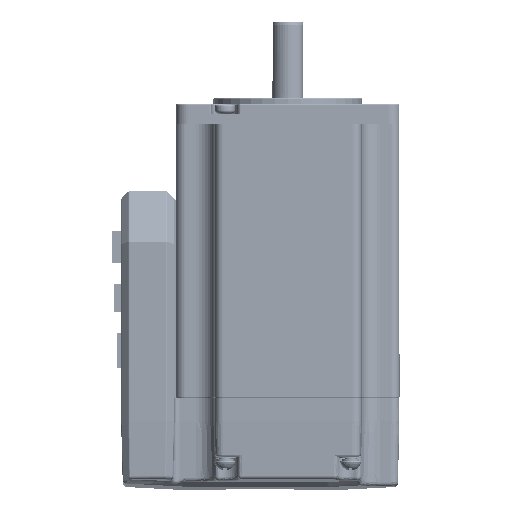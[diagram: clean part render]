
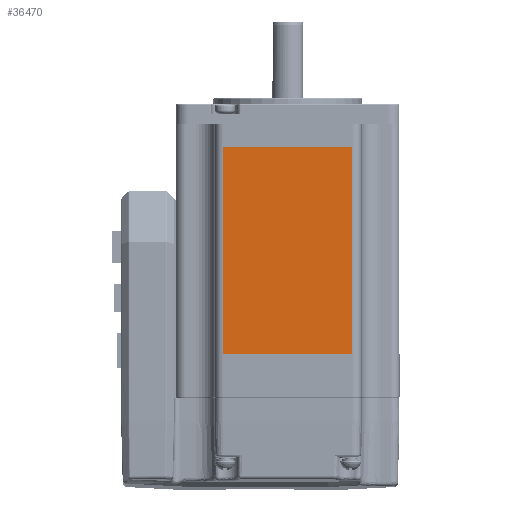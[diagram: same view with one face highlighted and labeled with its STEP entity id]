
A CAD part, left-side view. The second image highlights one B-rep face of the part: STEP entity #36470.
In plain terms, the highlighted planar face has unit normal (-1, 0, 0).
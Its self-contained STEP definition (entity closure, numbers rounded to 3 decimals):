
#27380=DIRECTION('',(0.,0.,1.));
#27381=VECTOR('',#27380,53.);
#27382=CARTESIAN_POINT('',(-28.6,-16.5,-26.5));
#27383=LINE('',#27382,#27381);
#27388=DIRECTION('',(0.,1.,0.));
#27389=VECTOR('',#27388,33.);
#27390=CARTESIAN_POINT('',(-28.6,-16.5,-26.5));
#27391=LINE('',#27390,#27389);
#27396=DIRECTION('',(0.,0.,-1.));
#27397=VECTOR('',#27396,53.);
#27398=CARTESIAN_POINT('',(-28.6,16.5,26.5));
#27399=LINE('',#27398,#27397);
#27526=DIRECTION('',(0.,1.,0.));
#27527=VECTOR('',#27526,33.);
#27528=CARTESIAN_POINT('',(-28.6,-16.5,26.5));
#27529=LINE('',#27528,#27527);
#32643=CARTESIAN_POINT('',(-28.6,16.5,-26.5));
#32644=VERTEX_POINT('',#32643);
#32645=CARTESIAN_POINT('',(-28.6,-16.5,-26.5));
#32646=VERTEX_POINT('',#32645);
#33804=CARTESIAN_POINT('',(-28.6,-16.5,26.5));
#33805=VERTEX_POINT('',#33804);
#33806=CARTESIAN_POINT('',(-28.6,16.5,26.5));
#33807=VERTEX_POINT('',#33806);
#36457=CARTESIAN_POINT('',(-28.6,-16.5,26.5));
#36458=DIRECTION('',(1.,0.,0.));
#36459=DIRECTION('',(0.,0.,-1.));
#36460=AXIS2_PLACEMENT_3D('',#36457,#36458,#36459);
#36461=PLANE('',#36460);
#36462=ORIENTED_EDGE('',*,*,#35048,.T.);
#36464=ORIENTED_EDGE('',*,*,#36463,.F.);
#36466=ORIENTED_EDGE('',*,*,#36465,.F.);
#36467=ORIENTED_EDGE('',*,*,#36449,.F.);
#36468=EDGE_LOOP('',(#36462,#36464,#36466,#36467));
#36469=FACE_OUTER_BOUND('',#36468,.F.);
#36470=ADVANCED_FACE('',(#36469),#36461,.F.);
#35048=EDGE_CURVE('',#32646,#32644,#27391,.T.);
#36449=EDGE_CURVE('',#32646,#33805,#27383,.T.);
#36463=EDGE_CURVE('',#33807,#32644,#27399,.T.);
#36465=EDGE_CURVE('',#33805,#33807,#27529,.T.);
